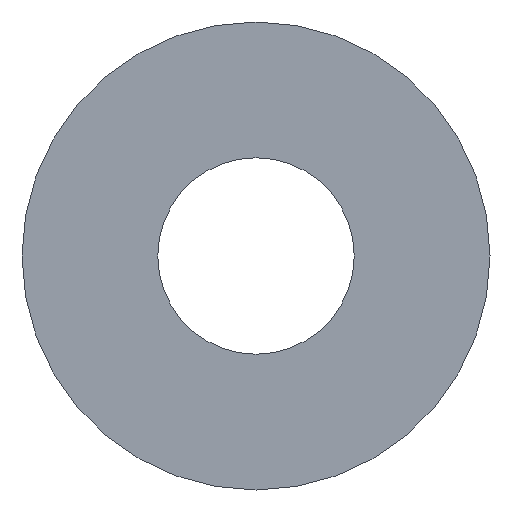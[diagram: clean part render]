
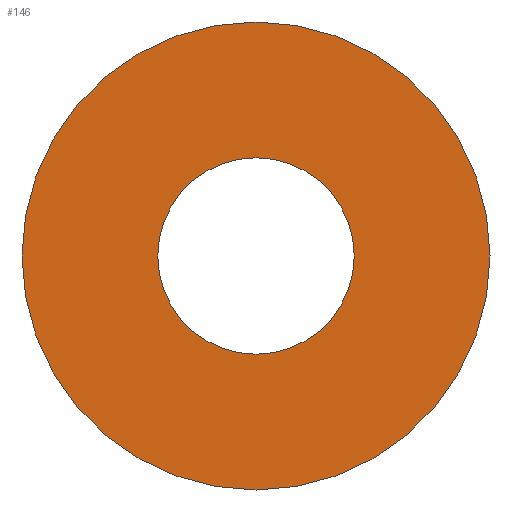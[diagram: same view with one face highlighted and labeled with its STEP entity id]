
A CAD part, front view. The second image highlights one B-rep face of the part: STEP entity #146.
In plain terms, the highlighted planar face has unit normal (0, -1, 0).
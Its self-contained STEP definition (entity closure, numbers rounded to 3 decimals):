
#7 = DIRECTION ( 'NONE',  ( 0., 0., 1. ) ) ;
#12 = CARTESIAN_POINT ( 'NONE',  ( 0., 0., -94. ) ) ;
#13 = EDGE_CURVE ( 'NONE', #195, #96, #114, .T. ) ;
#14 = VERTEX_POINT ( 'NONE', #65 ) ;
#30 = DIRECTION ( 'NONE',  ( 0., 0., 1. ) ) ;
#36 = ORIENTED_EDGE ( 'NONE', *, *, #13, .T. ) ;
#39 = AXIS2_PLACEMENT_3D ( 'NONE', #224, #160, #7 ) ;
#40 = AXIS2_PLACEMENT_3D ( 'NONE', #165, #102, #30 ) ;
#41 = DIRECTION ( 'NONE',  ( 0., 1., 0. ) ) ;
#48 = PLANE ( 'NONE',  #39 ) ;
#61 = EDGE_CURVE ( 'NONE', #96, #195, #62, .T. ) ;
#62 = CIRCLE ( 'NONE', #40, 94. ) ;
#65 = CARTESIAN_POINT ( 'NONE',  ( 0., 0., 224. ) ) ;
#72 = CIRCLE ( 'NONE', #129, 224. ) ;
#74 = AXIS2_PLACEMENT_3D ( 'NONE', #86, #240, #145 ) ;
#86 = CARTESIAN_POINT ( 'NONE',  ( 0., 0., 0. ) ) ;
#88 = FACE_BOUND ( 'NONE', #188, .T. ) ;
#96 = VERTEX_POINT ( 'NONE', #204 ) ;
#102 = DIRECTION ( 'NONE',  ( 0., 1., 0. ) ) ;
#114 = CIRCLE ( 'NONE', #74, 94. ) ;
#124 = VERTEX_POINT ( 'NONE', #239 ) ;
#125 = CARTESIAN_POINT ( 'NONE',  ( 0., 0., 0. ) ) ;
#129 = AXIS2_PLACEMENT_3D ( 'NONE', #147, #41, #201 ) ;
#137 = FACE_OUTER_BOUND ( 'NONE', #248, .T. ) ;
#145 = DIRECTION ( 'NONE',  ( 0., 0., 1. ) ) ;
#146 = ADVANCED_FACE ( 'NONE', ( #137, #88 ), #48, .F. ) ;
#147 = CARTESIAN_POINT ( 'NONE',  ( 0., 0., 0. ) ) ;
#160 = DIRECTION ( 'NONE',  ( 0., 1., 0. ) ) ;
#161 = EDGE_CURVE ( 'NONE', #124, #14, #229, .T. ) ;
#165 = CARTESIAN_POINT ( 'NONE',  ( 0., 0., 0. ) ) ;
#167 = DIRECTION ( 'NONE',  ( 0., 0., 1. ) ) ;
#170 = ORIENTED_EDGE ( 'NONE', *, *, #161, .F. ) ;
#181 = EDGE_CURVE ( 'NONE', #14, #124, #72, .T. ) ;
#183 = AXIS2_PLACEMENT_3D ( 'NONE', #125, #205, #167 ) ;
#188 = EDGE_LOOP ( 'NONE', ( #36, #190 ) ) ;
#190 = ORIENTED_EDGE ( 'NONE', *, *, #61, .T. ) ;
#195 = VERTEX_POINT ( 'NONE', #12 ) ;
#201 = DIRECTION ( 'NONE',  ( 0., 0., 1. ) ) ;
#204 = CARTESIAN_POINT ( 'NONE',  ( 0., 0., 94. ) ) ;
#205 = DIRECTION ( 'NONE',  ( 0., 1., 0. ) ) ;
#214 = ORIENTED_EDGE ( 'NONE', *, *, #181, .F. ) ;
#224 = CARTESIAN_POINT ( 'NONE',  ( 0., 0., 0. ) ) ;
#229 = CIRCLE ( 'NONE', #183, 224. ) ;
#239 = CARTESIAN_POINT ( 'NONE',  ( 0., 0., -224. ) ) ;
#240 = DIRECTION ( 'NONE',  ( 0., 1., 0. ) ) ;
#248 = EDGE_LOOP ( 'NONE', ( #170, #214 ) ) ;
